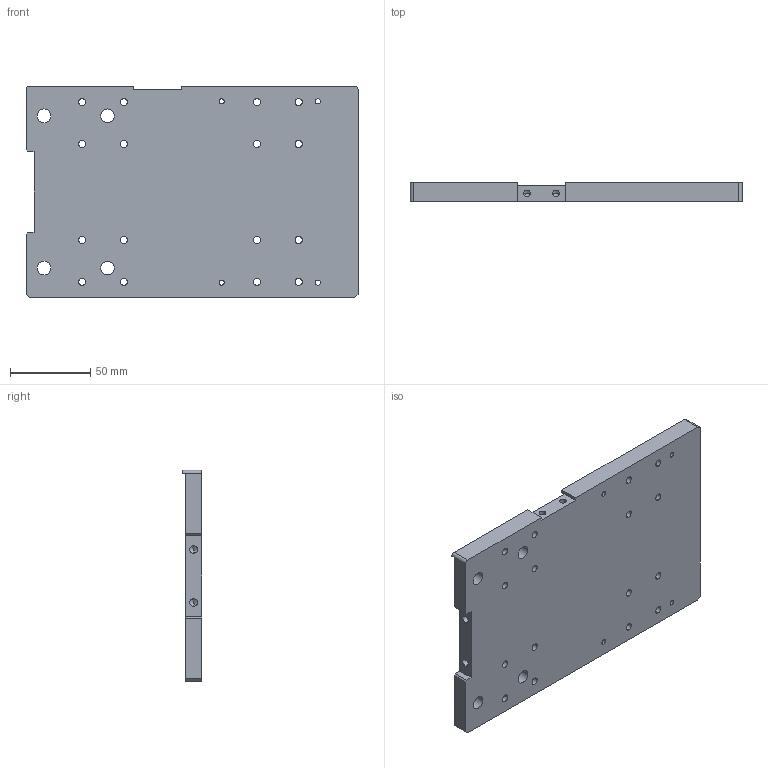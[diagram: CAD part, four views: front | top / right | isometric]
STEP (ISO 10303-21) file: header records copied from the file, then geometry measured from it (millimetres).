
FILE_DESCRIPTION(('CATIA V5 STEP Exchange'),'2;1');
FILE_NAME('D:\姚明阳\1、工装图纸\VDC阀插管工装治具\VDC阀插管工装治具\GZ30.07_V2.stp','2024-11-22T12:05:28+00:00',('none'),('none'),'CATIA Version 5 Release 21 GA (IN-10)','CATIA V5 STEP AP214','none');
FILE_SCHEMA(('AUTOMOTIVE_DESIGN { 1 0 10303 214 1 1 1 1 }'));
Length unit declared in the file: millimetre
Products named in the file (1): 压装底板
Bounding box: 207 x 12 x 132 mm (x, y, z)
Volume: 262120.8 mm3; surface area: 65949.1 mm2
Topology: 1 solids, 1 shells, 136 faces, 342 edges, 220 vertices
Faces by surface type: cylinder 90, plane 38, cone 8
Entity records: 4799 total; most frequent: CARTESIAN_POINT 1067, ORIENTED_EDGE 668, DIRECTION 521, EDGE_CURVE 334, AXIS2_PLACEMENT_3D 264, VERTEX_POINT 220, EDGE_LOOP 204, CIRCLE 159
